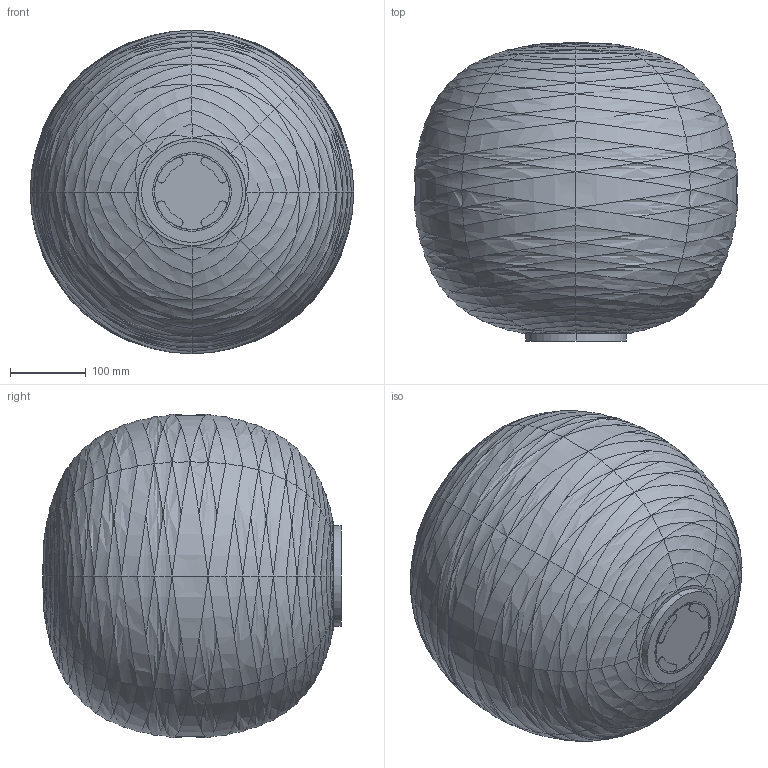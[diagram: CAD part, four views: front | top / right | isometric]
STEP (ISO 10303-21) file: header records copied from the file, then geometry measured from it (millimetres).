
FILE_DESCRIPTION (( 'STEP AP203' ), '1' );
FILE_NAME ('274_STD_C_ME_3D.STEP', '2022-08-24T12:55:14', ( '' ), ( '' ), 'SwSTEP 2.0', 'SolidWorks 2022', '' );
FILE_SCHEMA (( 'CONFIG_CONTROL_DESIGN' ));
Products named in the file (1): 274_STD_C_ME_3D
Bounding box: 427.95 x 395.47 x 427.95 mm (x, y, z)
Volume: 2860907.4 mm3; surface area: 1158517.4 mm2
Topology: 2 solids, 2 shells, 487 faces, 1071 edges, 427 vertices
Faces by surface type: bspline 441, cylinder 33, plane 13
Entity records: 69959 total; most frequent: CARTESIAN_POINT 63558, ORIENTED_EDGE 1770, EDGE_CURVE 885, B_SPLINE_CURVE_WITH_KNOTS 772, EDGE_LOOP 484, ADVANCED_FACE 477, FACE_OUTER_BOUND 477, B_SPLINE_SURFACE_WITH_KNOTS 429
